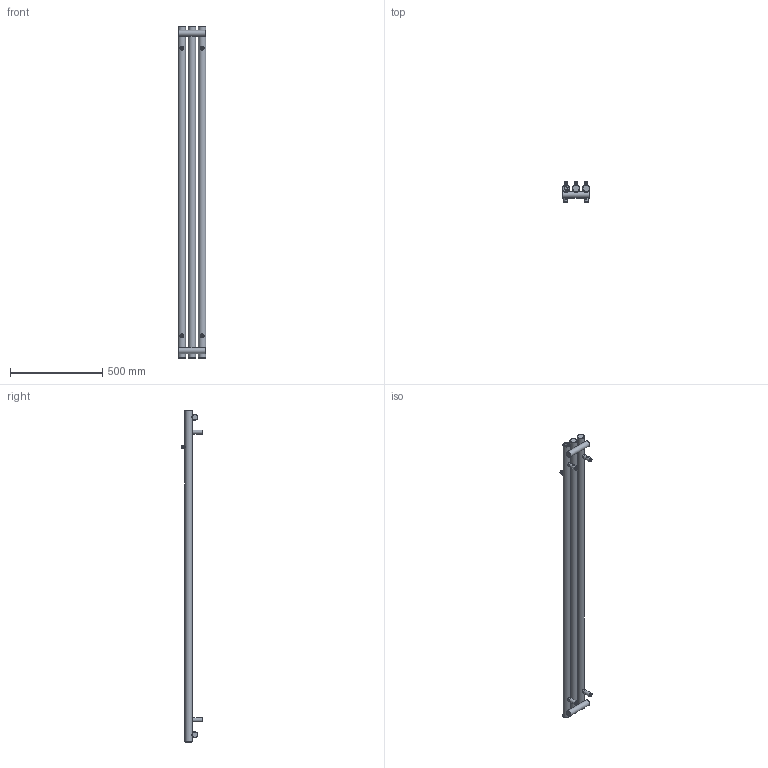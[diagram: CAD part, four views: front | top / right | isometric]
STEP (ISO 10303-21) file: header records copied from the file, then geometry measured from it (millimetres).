
FILE_DESCRIPTION(/* description */ (''),/* implementation_level */ '2;1');
FILE_NAME(/* name */ 'Z:\R\G\P\RGP116 - Grzejniki Geyser\Work\Inventor\Circolo (Rolo V, Rolo H)\ROLO-HANGER\Marketing\Bryły\Zaokrąglone\WGROW180015-SX-CK-(Z).stp',/* time_stamp */ '2024-03-27T09:36:42+01:00',/* author */ ('NowAd'),/* organization */ (''),/* preprocessor_version */ 'ST-DEVELOPER v17.2',/* originating_system */ 'Autodesk Inventor 2019',/* authorisation */ '');
FILE_SCHEMA (('AUTOMOTIVE_DESIGN { 1 0 10303 214 3 1 1 }'));
Length unit declared in the file: millimetre
Products named in the file (3): WGROR180015-SX-CK-(Z); PGROR180015-SX-CK-(K); CK-V-fi40 marketing
Assembly tree (5 placements, depth 2):
  WGROR180015-SX-CK-(Z)
    PGROR180015-SX-CK-(K)
    CK-V-fi40 marketing  x4
Bounding box: 150 x 116.5 x 1800 mm (x, y, z)
Volume: 7081501.9 mm3; surface area: 752861.1 mm2
Topology: 5 solids, 5 shells, 341 faces, 870 edges, 587 vertices
Faces by surface type: plane 138, cylinder 81, cone 60, torus 53, bspline 9
Full cylindrical faces by diameter (mm): 4.134 x4, 4.48 x4, 6.4 x4, 10 x4, 12 x4, 14 x3, 15.834 x4, 16 x4, 18.631 x3, 20 x6, 22 x4, 32 x2, 40 x3
Entity records: 7037 total; most frequent: CARTESIAN_POINT 3066, DIRECTION 861, ORIENTED_EDGE 784, EDGE_CURVE 392, AXIS2_PLACEMENT_3D 388, VERTEX_POINT 272, CIRCLE 223, EDGE_LOOP 198
